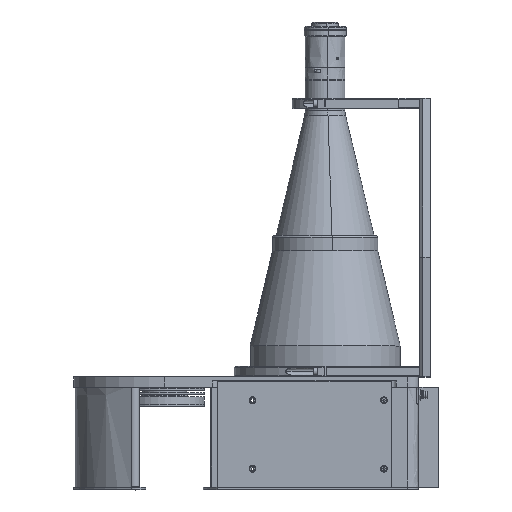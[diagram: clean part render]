
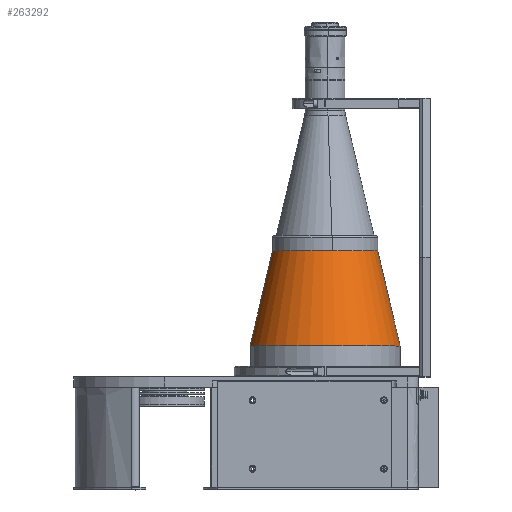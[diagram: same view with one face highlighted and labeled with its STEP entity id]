
A CAD part, top view. The second image highlights one B-rep face of the part: STEP entity #263292.
In plain terms, the highlighted face is a revolution surface.
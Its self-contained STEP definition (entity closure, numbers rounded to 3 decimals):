
#263292 = ADVANCED_FACE('',(#263293),#263308,.T.);
#263293 = FACE_BOUND('',#263294,.T.);
#263294 = EDGE_LOOP('',(#263295,#263321,#263336,#263352));
#263295 = ORIENTED_EDGE('',*,*,#263296,.F.);
#263296 = EDGE_CURVE('',#263297,#263299,#263301,.T.);
#263297 = VERTEX_POINT('',#263298);
#263298 = CARTESIAN_POINT('',(-70.801,93.596,
    9.972));
#263299 = VERTEX_POINT('',#263300);
#263300 = CARTESIAN_POINT('',(70.801,93.596,
    -9.972));
#263301 = SURFACE_CURVE('',#263302,(#263307),.PCURVE_S1.);
#263302 = CIRCLE('',#263303,71.5);
#263303 = AXIS2_PLACEMENT_3D('',#263304,#263305,#263306);
#263304 = CARTESIAN_POINT('',(0.,93.596,
    0.));
#263305 = DIRECTION('',(0.,1.,0.));
#263306 = DIRECTION('',(-0.99,0.,
    0.139));
#263307 = PCURVE('',#263308,#263316);
#263308 = SURFACE_OF_REVOLUTION('',#263309,#263313);
#263309 = LINE('',#263310,#263311);
#263310 = CARTESIAN_POINT('',(-49.511,184.136,6.973));
#263311 = VECTOR('',#263312,1.);
#263312 = DIRECTION('',(-0.229,-0.973,
    0.032));
#263313 = AXIS1_PLACEMENT('',#263314,#263315);
#263314 = CARTESIAN_POINT('',(0.,1184.136,0.));
#263315 = DIRECTION('',(0.,1.,0.));
#263316 = DEFINITIONAL_REPRESENTATION('',(#263317),#263320);
#263317 = B_SPLINE_CURVE_WITH_KNOTS('',1,(#263318,#263319),
  .UNSPECIFIED.,.F.,.F.,(2,2),(0.,3.142),
  .PIECEWISE_BEZIER_KNOTS.);
#263318 = CARTESIAN_POINT('',(0.,93.058));
#263319 = CARTESIAN_POINT('',(3.142,93.058));
#263320 = ( GEOMETRIC_REPRESENTATION_CONTEXT(2) 
PARAMETRIC_REPRESENTATION_CONTEXT() REPRESENTATION_CONTEXT('',''
  ) );
#263321 = ORIENTED_EDGE('',*,*,#263322,.F.);
#263322 = EDGE_CURVE('',#263323,#263297,#263325,.T.);
#263323 = VERTEX_POINT('',#263324);
#263324 = CARTESIAN_POINT('',(-49.511,184.136,
    6.973));
#263325 = SURFACE_CURVE('',#263326,(#263330),.PCURVE_S1.);
#263326 = LINE('',#263327,#263328);
#263327 = CARTESIAN_POINT('',(-49.511,184.136,6.973));
#263328 = VECTOR('',#263329,1.);
#263329 = DIRECTION('',(-0.229,-0.973,
    0.032));
#263330 = PCURVE('',#263308,#263331);
#263331 = DEFINITIONAL_REPRESENTATION('',(#263332),#263335);
#263332 = B_SPLINE_CURVE_WITH_KNOTS('',1,(#263333,#263334),
  .UNSPECIFIED.,.F.,.F.,(2,2),(0.,93.058),
  .PIECEWISE_BEZIER_KNOTS.);
#263333 = CARTESIAN_POINT('',(0.,0.));
#263334 = CARTESIAN_POINT('',(0.,93.058));
#263335 = ( GEOMETRIC_REPRESENTATION_CONTEXT(2) 
PARAMETRIC_REPRESENTATION_CONTEXT() REPRESENTATION_CONTEXT('',''
  ) );
#263336 = ORIENTED_EDGE('',*,*,#263337,.F.);
#263337 = EDGE_CURVE('',#263338,#263323,#263340,.T.);
#263338 = VERTEX_POINT('',#263339);
#263339 = CARTESIAN_POINT('',(49.511,184.136,
    -6.973));
#263340 = SURFACE_CURVE('',#263341,(#263346),.PCURVE_S1.);
#263341 = CIRCLE('',#263342,50.);
#263342 = AXIS2_PLACEMENT_3D('',#263343,#263344,#263345);
#263343 = CARTESIAN_POINT('',(0.,184.136,
    0.));
#263344 = DIRECTION('',(0.,-1.,0.));
#263345 = DIRECTION('',(0.99,0.,
    -0.139));
#263346 = PCURVE('',#263308,#263347);
#263347 = DEFINITIONAL_REPRESENTATION('',(#263348),#263351);
#263348 = B_SPLINE_CURVE_WITH_KNOTS('',1,(#263349,#263350),
  .UNSPECIFIED.,.F.,.F.,(2,2),(0.,3.142),
  .PIECEWISE_BEZIER_KNOTS.);
#263349 = CARTESIAN_POINT('',(3.142,0.));
#263350 = CARTESIAN_POINT('',(0.,0.));
#263351 = ( GEOMETRIC_REPRESENTATION_CONTEXT(2) 
PARAMETRIC_REPRESENTATION_CONTEXT() REPRESENTATION_CONTEXT('',''
  ) );
#263352 = ORIENTED_EDGE('',*,*,#263353,.F.);
#263353 = EDGE_CURVE('',#263299,#263338,#263354,.T.);
#263354 = SURFACE_CURVE('',#263355,(#263359),.PCURVE_S1.);
#263355 = LINE('',#263356,#263357);
#263356 = CARTESIAN_POINT('',(70.801,93.596,-9.972));
#263357 = VECTOR('',#263358,1.);
#263358 = DIRECTION('',(-0.229,0.973,0.032
    ));
#263359 = PCURVE('',#263308,#263360);
#263360 = DEFINITIONAL_REPRESENTATION('',(#263361),#263364);
#263361 = B_SPLINE_CURVE_WITH_KNOTS('',1,(#263362,#263363),
  .UNSPECIFIED.,.F.,.F.,(2,2),(0.,93.058),
  .PIECEWISE_BEZIER_KNOTS.);
#263362 = CARTESIAN_POINT('',(3.142,93.058));
#263363 = CARTESIAN_POINT('',(3.142,0.));
#263364 = ( GEOMETRIC_REPRESENTATION_CONTEXT(2) 
PARAMETRIC_REPRESENTATION_CONTEXT() REPRESENTATION_CONTEXT('',''
  ) );
